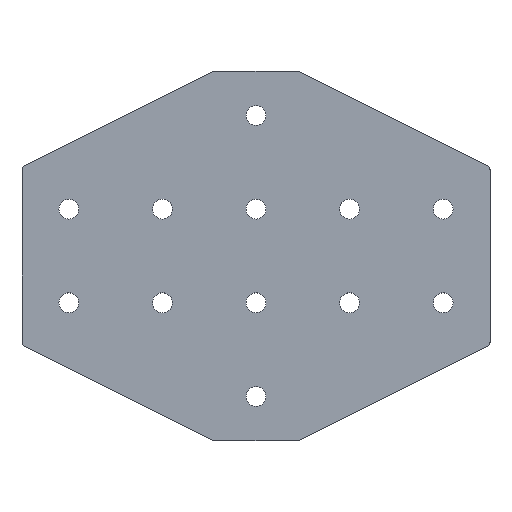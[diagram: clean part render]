
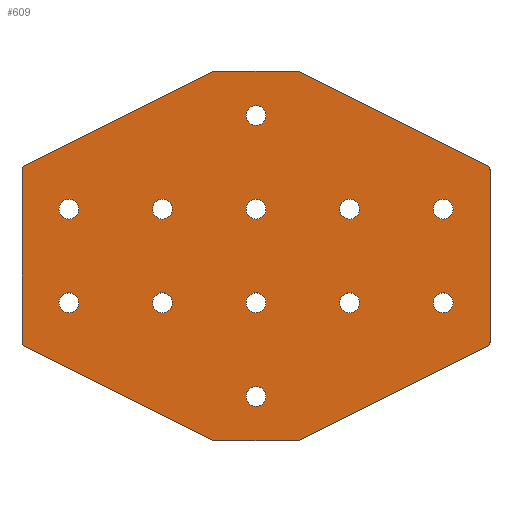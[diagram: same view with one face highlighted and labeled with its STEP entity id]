
A CAD part, top view. The second image highlights one B-rep face of the part: STEP entity #609.
In plain terms, the highlighted planar face has unit normal (0, 0, 1).
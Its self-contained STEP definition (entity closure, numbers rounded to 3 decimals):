
#15=FACE_BOUND('',#100,.T.);
#16=FACE_BOUND('',#101,.T.);
#17=FACE_BOUND('',#102,.T.);
#18=FACE_BOUND('',#103,.T.);
#19=FACE_BOUND('',#104,.T.);
#20=FACE_BOUND('',#105,.T.);
#21=FACE_BOUND('',#106,.T.);
#22=FACE_BOUND('',#107,.T.);
#23=FACE_BOUND('',#108,.T.);
#24=FACE_BOUND('',#109,.T.);
#25=FACE_BOUND('',#110,.T.);
#26=FACE_BOUND('',#111,.T.);
#47=PLANE('',#683);
#69=FACE_OUTER_BOUND('',#99,.T.);
#99=EDGE_LOOP('',(#481,#482,#483,#484,#485,#486,#487,#488,#489,#490,#491,
#492,#493,#494,#495,#496));
#100=EDGE_LOOP('',(#497));
#101=EDGE_LOOP('',(#498));
#102=EDGE_LOOP('',(#499));
#103=EDGE_LOOP('',(#500));
#104=EDGE_LOOP('',(#501));
#105=EDGE_LOOP('',(#502));
#106=EDGE_LOOP('',(#503));
#107=EDGE_LOOP('',(#504));
#108=EDGE_LOOP('',(#505));
#109=EDGE_LOOP('',(#506));
#110=EDGE_LOOP('',(#507));
#111=EDGE_LOOP('',(#508));
#147=LINE('',#975,#191);
#151=LINE('',#984,#195);
#155=LINE('',#993,#199);
#159=LINE('',#1002,#203);
#163=LINE('',#1011,#207);
#167=LINE('',#1020,#211);
#169=LINE('',#1025,#213);
#173=LINE('',#1034,#217);
#191=VECTOR('',#799,1000.);
#195=VECTOR('',#805,1000.);
#199=VECTOR('',#811,1000.);
#203=VECTOR('',#817,1000.);
#207=VECTOR('',#823,1000.);
#211=VECTOR('',#829,1000.);
#213=VECTOR('',#833,1000.);
#217=VECTOR('',#839,1000.);
#222=CIRCLE('',#641,4.25);
#224=CIRCLE('',#644,4.25);
#226=CIRCLE('',#647,4.25);
#228=CIRCLE('',#650,4.25);
#230=CIRCLE('',#653,4.25);
#232=CIRCLE('',#656,4.25);
#234=CIRCLE('',#659,4.25);
#236=CIRCLE('',#662,4.25);
#238=CIRCLE('',#665,4.25);
#240=CIRCLE('',#668,4.25);
#242=CIRCLE('',#671,4.25);
#244=CIRCLE('',#674,4.25);
#245=CIRCLE('',#684,2.);
#246=CIRCLE('',#685,2.);
#247=CIRCLE('',#686,2.);
#248=CIRCLE('',#687,2.);
#249=CIRCLE('',#688,2.);
#250=CIRCLE('',#689,2.);
#251=CIRCLE('',#690,2.);
#252=CIRCLE('',#691,2.);
#262=VERTEX_POINT('',#899);
#264=VERTEX_POINT('',#905);
#266=VERTEX_POINT('',#911);
#268=VERTEX_POINT('',#917);
#270=VERTEX_POINT('',#923);
#272=VERTEX_POINT('',#929);
#274=VERTEX_POINT('',#935);
#276=VERTEX_POINT('',#941);
#278=VERTEX_POINT('',#947);
#280=VERTEX_POINT('',#953);
#282=VERTEX_POINT('',#959);
#284=VERTEX_POINT('',#965);
#287=VERTEX_POINT('',#972);
#288=VERTEX_POINT('',#974);
#291=VERTEX_POINT('',#981);
#292=VERTEX_POINT('',#983);
#295=VERTEX_POINT('',#990);
#296=VERTEX_POINT('',#992);
#299=VERTEX_POINT('',#999);
#300=VERTEX_POINT('',#1001);
#303=VERTEX_POINT('',#1008);
#304=VERTEX_POINT('',#1010);
#307=VERTEX_POINT('',#1017);
#308=VERTEX_POINT('',#1019);
#309=VERTEX_POINT('',#1023);
#310=VERTEX_POINT('',#1024);
#313=VERTEX_POINT('',#1032);
#314=VERTEX_POINT('',#1033);
#319=EDGE_CURVE('',#262,#262,#222,.T.);
#322=EDGE_CURVE('',#264,#264,#224,.T.);
#325=EDGE_CURVE('',#266,#266,#226,.T.);
#328=EDGE_CURVE('',#268,#268,#228,.T.);
#331=EDGE_CURVE('',#270,#270,#230,.T.);
#334=EDGE_CURVE('',#272,#272,#232,.T.);
#337=EDGE_CURVE('',#274,#274,#234,.T.);
#340=EDGE_CURVE('',#276,#276,#236,.T.);
#343=EDGE_CURVE('',#278,#278,#238,.T.);
#346=EDGE_CURVE('',#280,#280,#240,.T.);
#349=EDGE_CURVE('',#282,#282,#242,.T.);
#352=EDGE_CURVE('',#284,#284,#244,.T.);
#355=EDGE_CURVE('',#288,#287,#147,.T.);
#359=EDGE_CURVE('',#292,#291,#151,.T.);
#363=EDGE_CURVE('',#296,#295,#155,.T.);
#367=EDGE_CURVE('',#300,#299,#159,.T.);
#371=EDGE_CURVE('',#304,#303,#163,.T.);
#375=EDGE_CURVE('',#308,#307,#167,.T.);
#377=EDGE_CURVE('',#309,#310,#169,.T.);
#381=EDGE_CURVE('',#313,#314,#173,.T.);
#385=EDGE_CURVE('',#307,#309,#245,.T.);
#386=EDGE_CURVE('',#310,#313,#246,.T.);
#387=EDGE_CURVE('',#314,#288,#247,.T.);
#388=EDGE_CURVE('',#287,#292,#248,.T.);
#389=EDGE_CURVE('',#291,#296,#249,.T.);
#390=EDGE_CURVE('',#295,#300,#250,.T.);
#391=EDGE_CURVE('',#299,#304,#251,.T.);
#392=EDGE_CURVE('',#303,#308,#252,.T.);
#481=ORIENTED_EDGE('',*,*,#375,.T.);
#482=ORIENTED_EDGE('',*,*,#385,.T.);
#483=ORIENTED_EDGE('',*,*,#377,.T.);
#484=ORIENTED_EDGE('',*,*,#386,.T.);
#485=ORIENTED_EDGE('',*,*,#381,.T.);
#486=ORIENTED_EDGE('',*,*,#387,.T.);
#487=ORIENTED_EDGE('',*,*,#355,.T.);
#488=ORIENTED_EDGE('',*,*,#388,.T.);
#489=ORIENTED_EDGE('',*,*,#359,.T.);
#490=ORIENTED_EDGE('',*,*,#389,.T.);
#491=ORIENTED_EDGE('',*,*,#363,.T.);
#492=ORIENTED_EDGE('',*,*,#390,.T.);
#493=ORIENTED_EDGE('',*,*,#367,.T.);
#494=ORIENTED_EDGE('',*,*,#391,.T.);
#495=ORIENTED_EDGE('',*,*,#371,.T.);
#496=ORIENTED_EDGE('',*,*,#392,.T.);
#497=ORIENTED_EDGE('',*,*,#319,.F.);
#498=ORIENTED_EDGE('',*,*,#322,.F.);
#499=ORIENTED_EDGE('',*,*,#325,.F.);
#500=ORIENTED_EDGE('',*,*,#328,.F.);
#501=ORIENTED_EDGE('',*,*,#331,.F.);
#502=ORIENTED_EDGE('',*,*,#334,.F.);
#503=ORIENTED_EDGE('',*,*,#337,.F.);
#504=ORIENTED_EDGE('',*,*,#340,.F.);
#505=ORIENTED_EDGE('',*,*,#343,.F.);
#506=ORIENTED_EDGE('',*,*,#346,.F.);
#507=ORIENTED_EDGE('',*,*,#349,.F.);
#508=ORIENTED_EDGE('',*,*,#352,.F.);
#609=ADVANCED_FACE('',(#69,#15,#16,#17,#18,#19,#20,#21,#22,#23,#24,#25,
#26),#47,.F.);
#641=AXIS2_PLACEMENT_3D('',#901,#716,#717);
#644=AXIS2_PLACEMENT_3D('',#907,#723,#724);
#647=AXIS2_PLACEMENT_3D('',#913,#730,#731);
#650=AXIS2_PLACEMENT_3D('',#919,#737,#738);
#653=AXIS2_PLACEMENT_3D('',#925,#744,#745);
#656=AXIS2_PLACEMENT_3D('',#931,#751,#752);
#659=AXIS2_PLACEMENT_3D('',#937,#758,#759);
#662=AXIS2_PLACEMENT_3D('',#943,#765,#766);
#665=AXIS2_PLACEMENT_3D('',#949,#772,#773);
#668=AXIS2_PLACEMENT_3D('',#955,#779,#780);
#671=AXIS2_PLACEMENT_3D('',#961,#786,#787);
#674=AXIS2_PLACEMENT_3D('',#967,#793,#794);
#683=AXIS2_PLACEMENT_3D('',#1040,#843,#844);
#684=AXIS2_PLACEMENT_3D('',#1041,#845,#846);
#685=AXIS2_PLACEMENT_3D('',#1042,#847,#848);
#686=AXIS2_PLACEMENT_3D('',#1043,#849,#850);
#687=AXIS2_PLACEMENT_3D('',#1044,#851,#852);
#688=AXIS2_PLACEMENT_3D('',#1045,#853,#854);
#689=AXIS2_PLACEMENT_3D('',#1046,#855,#856);
#690=AXIS2_PLACEMENT_3D('',#1047,#857,#858);
#691=AXIS2_PLACEMENT_3D('',#1048,#859,#860);
#716=DIRECTION('center_axis',(0.,0.,1.));
#717=DIRECTION('ref_axis',(1.,0.,0.));
#723=DIRECTION('center_axis',(0.,0.,1.));
#724=DIRECTION('ref_axis',(1.,0.,0.));
#730=DIRECTION('center_axis',(0.,0.,1.));
#731=DIRECTION('ref_axis',(1.,0.,0.));
#737=DIRECTION('center_axis',(0.,0.,1.));
#738=DIRECTION('ref_axis',(1.,0.,0.));
#744=DIRECTION('center_axis',(0.,0.,1.));
#745=DIRECTION('ref_axis',(1.,0.,0.));
#751=DIRECTION('center_axis',(0.,0.,1.));
#752=DIRECTION('ref_axis',(1.,0.,0.));
#758=DIRECTION('center_axis',(0.,0.,1.));
#759=DIRECTION('ref_axis',(1.,0.,0.));
#765=DIRECTION('center_axis',(0.,0.,1.));
#766=DIRECTION('ref_axis',(1.,0.,0.));
#772=DIRECTION('center_axis',(0.,0.,1.));
#773=DIRECTION('ref_axis',(1.,0.,0.));
#779=DIRECTION('center_axis',(0.,0.,1.));
#780=DIRECTION('ref_axis',(1.,0.,0.));
#786=DIRECTION('center_axis',(0.,0.,1.));
#787=DIRECTION('ref_axis',(1.,0.,0.));
#793=DIRECTION('center_axis',(0.,0.,1.));
#794=DIRECTION('ref_axis',(1.,0.,0.));
#799=DIRECTION('',(-0.894,-0.447,0.));
#805=DIRECTION('',(0.,-1.,0.));
#811=DIRECTION('',(0.894,-0.447,0.));
#817=DIRECTION('',(1.,0.,0.));
#823=DIRECTION('',(0.894,0.447,0.));
#829=DIRECTION('',(0.,1.,0.));
#833=DIRECTION('',(-0.894,0.447,0.));
#839=DIRECTION('',(-1.,0.,0.));
#843=DIRECTION('center_axis',(0.,0.,-1.));
#844=DIRECTION('ref_axis',(-1.,0.,0.));
#845=DIRECTION('center_axis',(0.,0.,1.));
#846=DIRECTION('ref_axis',(-1.,0.,0.));
#847=DIRECTION('center_axis',(0.,0.,1.));
#848=DIRECTION('ref_axis',(-1.,0.,0.));
#849=DIRECTION('center_axis',(0.,0.,1.));
#850=DIRECTION('ref_axis',(-1.,0.,0.));
#851=DIRECTION('center_axis',(0.,0.,1.));
#852=DIRECTION('ref_axis',(-1.,0.,0.));
#853=DIRECTION('center_axis',(0.,0.,1.));
#854=DIRECTION('ref_axis',(-1.,0.,0.));
#855=DIRECTION('center_axis',(0.,0.,1.));
#856=DIRECTION('ref_axis',(-1.,0.,0.));
#857=DIRECTION('center_axis',(0.,0.,1.));
#858=DIRECTION('ref_axis',(-1.,0.,0.));
#859=DIRECTION('center_axis',(0.,0.,1.));
#860=DIRECTION('ref_axis',(-1.,0.,0.));
#899=CARTESIAN_POINT('',(40.617,-40.234,3.));
#901=CARTESIAN_POINT('Origin',(44.867,-40.234,3.));
#905=CARTESIAN_POINT('',(40.617,-0.234,3.));
#907=CARTESIAN_POINT('Origin',(44.867,-0.234,3.));
#911=CARTESIAN_POINT('',(-39.383,-40.234,3.));
#913=CARTESIAN_POINT('Origin',(-35.133,-40.234,3.));
#917=CARTESIAN_POINT('',(-39.383,-0.234,3.));
#919=CARTESIAN_POINT('Origin',(-35.133,-0.234,3.));
#923=CARTESIAN_POINT('',(80.617,-40.234,3.));
#925=CARTESIAN_POINT('Origin',(84.867,-40.234,3.));
#929=CARTESIAN_POINT('',(80.617,-0.234,3.));
#931=CARTESIAN_POINT('Origin',(84.867,-0.234,3.));
#935=CARTESIAN_POINT('',(-79.383,-40.234,3.));
#937=CARTESIAN_POINT('Origin',(-75.133,-40.234,3.));
#941=CARTESIAN_POINT('',(-79.383,-0.234,3.));
#943=CARTESIAN_POINT('Origin',(-75.133,-0.234,3.));
#947=CARTESIAN_POINT('',(0.617,39.766,3.));
#949=CARTESIAN_POINT('Origin',(4.867,39.766,3.));
#953=CARTESIAN_POINT('',(0.617,-80.234,3.));
#955=CARTESIAN_POINT('Origin',(4.867,-80.234,3.));
#959=CARTESIAN_POINT('',(0.617,-40.234,3.));
#961=CARTESIAN_POINT('Origin',(4.867,-40.234,3.));
#965=CARTESIAN_POINT('',(0.617,-0.234,3.));
#967=CARTESIAN_POINT('Origin',(4.867,-0.234,3.));
#972=CARTESIAN_POINT('',(-94.028,18.319,3.));
#974=CARTESIAN_POINT('',(-13.556,58.555,3.));
#975=CARTESIAN_POINT('',(-95.133,17.766,3.));
#981=CARTESIAN_POINT('',(-95.133,-56.998,3.));
#983=CARTESIAN_POINT('',(-95.133,16.53,3.));
#984=CARTESIAN_POINT('',(-95.133,-58.234,3.));
#990=CARTESIAN_POINT('',(-13.556,-99.023,3.));
#992=CARTESIAN_POINT('',(-94.028,-58.787,3.));
#993=CARTESIAN_POINT('',(-13.133,-99.234,3.));
#999=CARTESIAN_POINT('',(22.394,-99.234,3.));
#1001=CARTESIAN_POINT('',(-12.661,-99.234,3.));
#1002=CARTESIAN_POINT('',(22.867,-99.234,3.));
#1008=CARTESIAN_POINT('',(103.761,-58.787,3.));
#1010=CARTESIAN_POINT('',(23.289,-99.023,3.));
#1011=CARTESIAN_POINT('',(104.867,-58.234,3.));
#1017=CARTESIAN_POINT('',(104.867,16.53,3.));
#1019=CARTESIAN_POINT('',(104.867,-56.998,3.));
#1020=CARTESIAN_POINT('',(104.867,17.766,3.));
#1023=CARTESIAN_POINT('',(103.761,18.319,3.));
#1024=CARTESIAN_POINT('',(23.289,58.555,3.));
#1025=CARTESIAN_POINT('',(22.867,58.766,3.));
#1032=CARTESIAN_POINT('',(22.394,58.766,3.));
#1033=CARTESIAN_POINT('',(-12.661,58.766,3.));
#1034=CARTESIAN_POINT('',(-13.133,58.766,3.));
#1040=CARTESIAN_POINT('Origin',(0.,0.,3.));
#1041=CARTESIAN_POINT('Origin',(102.867,16.53,3.));
#1042=CARTESIAN_POINT('Origin',(22.394,56.766,3.));
#1043=CARTESIAN_POINT('Origin',(-12.661,56.766,3.));
#1044=CARTESIAN_POINT('Origin',(-93.133,16.53,3.));
#1045=CARTESIAN_POINT('Origin',(-93.133,-56.998,3.));
#1046=CARTESIAN_POINT('Origin',(-12.661,-97.234,3.));
#1047=CARTESIAN_POINT('Origin',(22.394,-97.234,3.));
#1048=CARTESIAN_POINT('Origin',(102.867,-56.998,3.));
